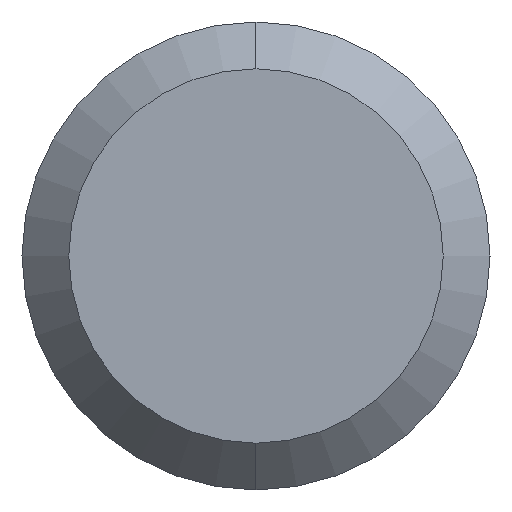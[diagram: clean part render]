
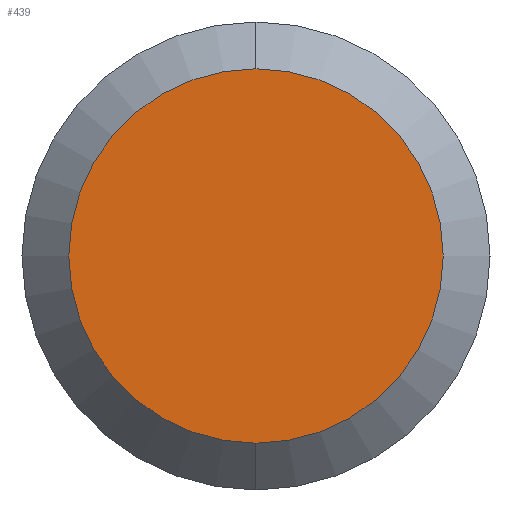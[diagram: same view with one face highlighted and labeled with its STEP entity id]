
A CAD part, left-side view. The second image highlights one B-rep face of the part: STEP entity #439.
In plain terms, the highlighted planar face has unit normal (-1, 0, 0).
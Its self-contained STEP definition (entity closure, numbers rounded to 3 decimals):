
#3 = ORIENTED_EDGE ( 'NONE', *, *, #177, .T. ) ;
#93 = PLANE ( 'NONE',  #190 ) ;
#108 = DIRECTION ( 'NONE',  ( 0., 0., 1. ) ) ;
#147 = VERTEX_POINT ( 'NONE', #421 ) ;
#158 = DIRECTION ( 'NONE',  ( 0., 0., -1. ) ) ;
#164 = ORIENTED_EDGE ( 'NONE', *, *, #219, .T. ) ;
#172 = DIRECTION ( 'NONE',  ( -1., 0., 0. ) ) ;
#174 = CIRCLE ( 'NONE', #185, 1.6 ) ;
#177 = EDGE_CURVE ( 'NONE', #147, #312, #370, .T. ) ;
#178 = DIRECTION ( 'NONE',  ( 0., 0., 1. ) ) ;
#179 = CARTESIAN_POINT ( 'NONE',  ( 0., 0., 0. ) ) ;
#185 = AXIS2_PLACEMENT_3D ( 'NONE', #179, #172, #108 ) ;
#190 = AXIS2_PLACEMENT_3D ( 'NONE', #364, #262, #158 ) ;
#219 = EDGE_CURVE ( 'NONE', #312, #147, #174, .T. ) ;
#262 = DIRECTION ( 'NONE',  ( 1., 0., 0. ) ) ;
#312 = VERTEX_POINT ( 'NONE', #428 ) ;
#325 = EDGE_LOOP ( 'NONE', ( #3, #164 ) ) ;
#354 = DIRECTION ( 'NONE',  ( -1., 0., 0. ) ) ;
#364 = CARTESIAN_POINT ( 'NONE',  ( 0., 0., 0. ) ) ;
#370 = CIRCLE ( 'NONE', #427, 1.6 ) ;
#384 = FACE_OUTER_BOUND ( 'NONE', #325, .T. ) ;
#414 = CARTESIAN_POINT ( 'NONE',  ( 0., 0., 0. ) ) ;
#421 = CARTESIAN_POINT ( 'NONE',  ( 0., 0., -1.6 ) ) ;
#427 = AXIS2_PLACEMENT_3D ( 'NONE', #414, #354, #178 ) ;
#428 = CARTESIAN_POINT ( 'NONE',  ( 0., 0., 1.6 ) ) ;
#439 = ADVANCED_FACE ( 'NONE', ( #384 ), #93, .F. ) ;
